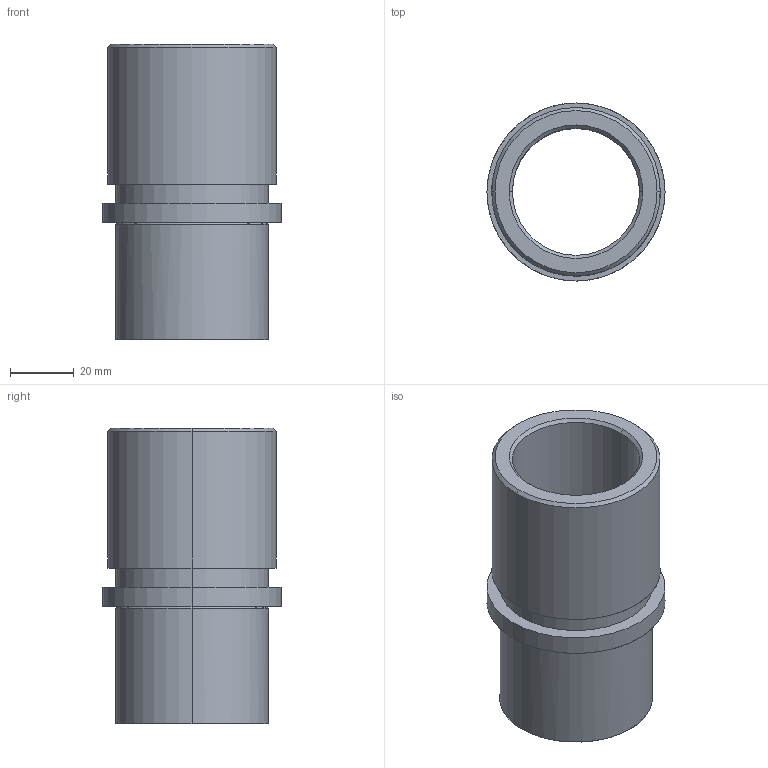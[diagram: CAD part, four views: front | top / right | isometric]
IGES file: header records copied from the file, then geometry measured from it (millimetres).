
Start section: START RECORD GO HERE.
Global section: file name: 734-32.igs; native system: DASSAULT SYSTEMES CATIA V5 R20 - www.3ds.com; preprocessor: CATIA Version 5 Release 20 ; author: Utente; organization: NB04-ASUS; date: 20210116.200410; units: millimetre
Bounding box: 56 x 56 x 93 mm (x, y, z)
Surface area: 29757.3 mm2 (no closed solid volume)
Topology: 0 solids, 0 shells, 25 faces, 100 edges, 100 vertices
Faces by surface type: revolution 20, plane 5
